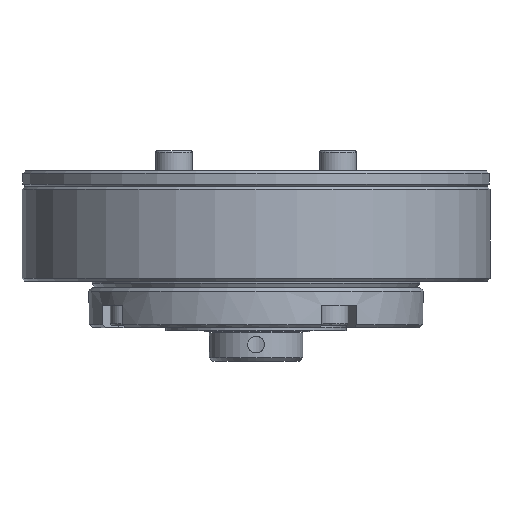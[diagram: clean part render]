
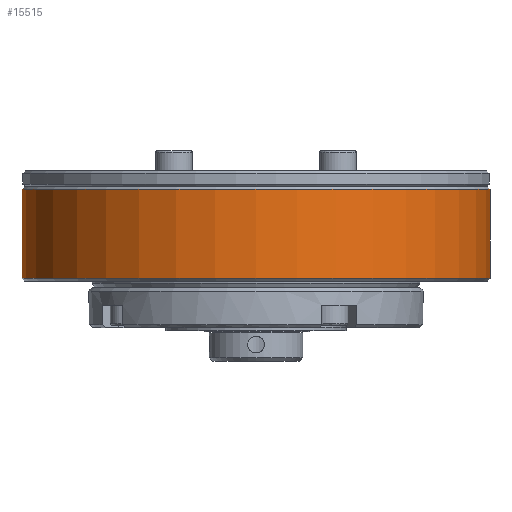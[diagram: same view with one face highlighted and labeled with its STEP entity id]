
A CAD part, front view. The second image highlights one B-rep face of the part: STEP entity #15515.
In plain terms, the highlighted cylindrical face has radius 35 mm (diameter 70 mm), a full revolution.
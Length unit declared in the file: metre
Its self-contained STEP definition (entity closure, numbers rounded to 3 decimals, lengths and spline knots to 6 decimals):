
#1341 = ORIENTED_EDGE ( 'NONE', *, *, #14771, .T. ) ;
#2126 = DIRECTION ( 'NONE',  ( 0., 0., 1. ) ) ;
#3634 = CIRCLE ( 'NONE', #9808, 0.035 ) ;
#5015 = CIRCLE ( 'NONE', #15768, 0.035 ) ;
#5084 = AXIS2_PLACEMENT_3D ( 'NONE', #16709, #2126, #11352 ) ;
#5172 = CARTESIAN_POINT ( 'NONE',  ( 0., 0., 0.007 ) ) ;
#5805 = CARTESIAN_POINT ( 'NONE',  ( -0.035, 0., 0.007 ) ) ;
#6659 = CARTESIAN_POINT ( 'NONE',  ( 0., 0., 0.0203 ) ) ;
#7176 = EDGE_LOOP ( 'NONE', ( #1341 ) ) ;
#7359 = VERTEX_POINT ( 'NONE', #12497 ) ;
#7497 = DIRECTION ( 'NONE',  ( 0., 0., -1. ) ) ;
#8736 = DIRECTION ( 'NONE',  ( -1., 0., 0. ) ) ;
#9216 = DIRECTION ( 'NONE',  ( -1., 0., 0. ) ) ;
#9800 = FACE_OUTER_BOUND ( 'NONE', #14349, .T. ) ;
#9808 = AXIS2_PLACEMENT_3D ( 'NONE', #6659, #7497, #8736 ) ;
#11270 = FACE_OUTER_BOUND ( 'NONE', #7176, .T. ) ;
#11352 = DIRECTION ( 'NONE',  ( -1., 0., 0. ) ) ;
#11840 = EDGE_CURVE ( 'NONE', #7359, #7359, #3634, .T. ) ;
#12462 = ORIENTED_EDGE ( 'NONE', *, *, #11840, .T. ) ;
#12497 = CARTESIAN_POINT ( 'NONE',  ( -0.035, 0., 0.0203 ) ) ;
#13967 = VERTEX_POINT ( 'NONE', #5805 ) ;
#14349 = EDGE_LOOP ( 'NONE', ( #12462 ) ) ;
#14771 = EDGE_CURVE ( 'NONE', #13967, #13967, #5015, .T. ) ;
#15515 = ADVANCED_FACE ( 'NONE', ( #11270, #9800 ), #16795, .T. ) ;
#15768 = AXIS2_PLACEMENT_3D ( 'NONE', #5172, #15801, #9216 ) ;
#15801 = DIRECTION ( 'NONE',  ( 0., 0., 1. ) ) ;
#16709 = CARTESIAN_POINT ( 'NONE',  ( 0., 0., 0.028742 ) ) ;
#16795 = CYLINDRICAL_SURFACE ( 'NONE', #5084, 0.035 ) ;
